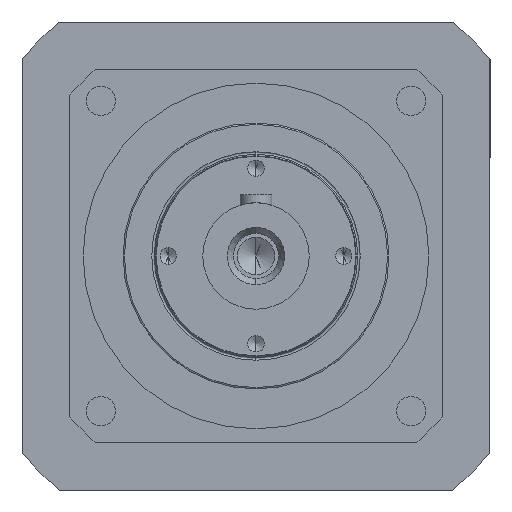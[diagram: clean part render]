
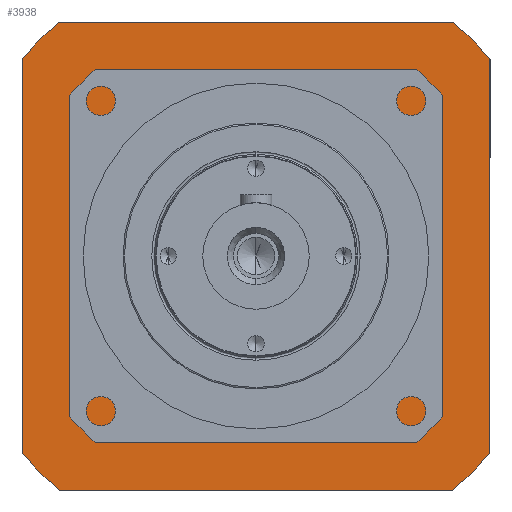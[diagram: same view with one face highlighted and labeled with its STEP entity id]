
A CAD part, left-side view. The second image highlights one B-rep face of the part: STEP entity #3938.
In plain terms, the highlighted planar face has unit normal (-1, 0, 0) as drawn and (0, 0, 1) by its records, which use the part's own axes.
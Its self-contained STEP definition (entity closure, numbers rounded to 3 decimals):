
#126 = CARTESIAN_POINT ( 'NONE',  ( -88., 88., 0. ) ) ;
#186 = ORIENTED_EDGE ( 'NONE', *, *, #6323, .F. ) ;
#188 = DIRECTION ( 'NONE',  ( 0., -1., 0. ) ) ;
#197 = VERTEX_POINT ( 'NONE', #3683 ) ;
#542 = VERTEX_POINT ( 'NONE', #5874 ) ;
#615 = VECTOR ( 'NONE', #188, 1000. ) ;
#750 = CARTESIAN_POINT ( 'NONE',  ( 74.034, 88., 0. ) ) ;
#926 = ORIENTED_EDGE ( 'NONE', *, *, #3957, .T. ) ;
#1027 = EDGE_CURVE ( 'NONE', #9112, #4358, #1733, .T. ) ;
#1128 = ORIENTED_EDGE ( 'NONE', *, *, #3636, .T. ) ;
#1171 = CARTESIAN_POINT ( 'NONE',  ( -62.5, 0., 0. ) ) ;
#1234 = LINE ( 'NONE', #126, #615 ) ;
#1516 = VERTEX_POINT ( 'NONE', #8123 ) ;
#1672 = VECTOR ( 'NONE', #4030, 1000. ) ;
#1733 = LINE ( 'NONE', #2575, #1672 ) ;
#2215 = DIRECTION ( 'NONE',  ( 0., 1., 0. ) ) ;
#2454 = EDGE_CURVE ( 'NONE', #4358, #9563, #6857, .T. ) ;
#2575 = CARTESIAN_POINT ( 'NONE',  ( -88., -88., 0. ) ) ;
#3063 = VERTEX_POINT ( 'NONE', #1171 ) ;
#3137 = AXIS2_PLACEMENT_3D ( 'NONE', #10645, #10637, #10621 ) ;
#3152 = EDGE_CURVE ( 'NONE', #542, #1516, #1234, .T. ) ;
#3192 = CARTESIAN_POINT ( 'NONE',  ( 62.5, 0., 0. ) ) ;
#3528 = CARTESIAN_POINT ( 'NONE',  ( 0., 0., 0. ) ) ;
#3636 = EDGE_CURVE ( 'NONE', #197, #542, #9202, .T. ) ;
#3683 = CARTESIAN_POINT ( 'NONE',  ( -74.034, 88., 0. ) ) ;
#3938 = ADVANCED_FACE ( 'NONE', ( #7573, #7492 ), #10993, .F. ) ;
#3957 = EDGE_CURVE ( 'NONE', #7548, #10428, #7752, .T. ) ;
#3983 = AXIS2_PLACEMENT_3D ( 'NONE', #5174, #5158, #5144 ) ;
#4008 = DIRECTION ( 'NONE',  ( 1., 0., 0. ) ) ;
#4030 = DIRECTION ( 'NONE',  ( 1., 0., 0. ) ) ;
#4209 = ORIENTED_EDGE ( 'NONE', *, *, #2454, .T. ) ;
#4358 = VERTEX_POINT ( 'NONE', #7511 ) ;
#4363 = CARTESIAN_POINT ( 'NONE',  ( 0., 0., 0. ) ) ;
#4385 = DIRECTION ( 'NONE',  ( 0., 0., 1. ) ) ;
#4755 = ORIENTED_EDGE ( 'NONE', *, *, #11034, .T. ) ;
#5040 = CARTESIAN_POINT ( 'NONE',  ( 88., 74.034, 0. ) ) ;
#5144 = DIRECTION ( 'NONE',  ( 1., 0., 0. ) ) ;
#5158 = DIRECTION ( 'NONE',  ( 0., 0., 1. ) ) ;
#5174 = CARTESIAN_POINT ( 'NONE',  ( 0., 0., 0. ) ) ;
#5464 = DIRECTION ( 'NONE',  ( -1., 0., 0. ) ) ;
#5773 = AXIS2_PLACEMENT_3D ( 'NONE', #4363, #4385, #4008 ) ;
#5874 = CARTESIAN_POINT ( 'NONE',  ( -88., 74.034, 0. ) ) ;
#6164 = CARTESIAN_POINT ( 'NONE',  ( 88., 88., 0. ) ) ;
#6166 = CARTESIAN_POINT ( 'NONE',  ( -88., 88., 0. ) ) ;
#6196 = CIRCLE ( 'NONE', #3137, 115. ) ;
#6323 = EDGE_CURVE ( 'NONE', #3063, #10148, #8152, .T. ) ;
#6332 = VECTOR ( 'NONE', #2215, 1000. ) ;
#6354 = VECTOR ( 'NONE', #5464, 1000. ) ;
#6431 = CARTESIAN_POINT ( 'NONE',  ( 88., -74.034, 0. ) ) ;
#6627 = EDGE_LOOP ( 'NONE', ( #10991, #926, #7433, #1128, #6757, #4755, #9697, #4209 ) ) ;
#6757 = ORIENTED_EDGE ( 'NONE', *, *, #3152, .T. ) ;
#6857 = CIRCLE ( 'NONE', #8086, 115. ) ;
#7171 = AXIS2_PLACEMENT_3D ( 'NONE', #10357, #10347, #10337 ) ;
#7174 = AXIS2_PLACEMENT_3D ( 'NONE', #10898, #10772, #10741 ) ;
#7250 = LINE ( 'NONE', #6166, #6354 ) ;
#7381 = AXIS2_PLACEMENT_3D ( 'NONE', #3528, #10373, #9878 ) ;
#7433 = ORIENTED_EDGE ( 'NONE', *, *, #10916, .T. ) ;
#7492 = FACE_OUTER_BOUND ( 'NONE', #6627, .T. ) ;
#7511 = CARTESIAN_POINT ( 'NONE',  ( 74.034, -88., 0. ) ) ;
#7548 = VERTEX_POINT ( 'NONE', #5040 ) ;
#7573 = FACE_BOUND ( 'NONE', #9934, .T. ) ;
#7735 = ORIENTED_EDGE ( 'NONE', *, *, #9725, .F. ) ;
#7752 = CIRCLE ( 'NONE', #7171, 115. ) ;
#7831 = CARTESIAN_POINT ( 'NONE',  ( -74.034, -88., 0. ) ) ;
#8086 = AXIS2_PLACEMENT_3D ( 'NONE', #10734, #10715, #10695 ) ;
#8123 = CARTESIAN_POINT ( 'NONE',  ( -88., -74.034, 0. ) ) ;
#8152 = CIRCLE ( 'NONE', #5773, 62.5 ) ;
#9112 = VERTEX_POINT ( 'NONE', #7831 ) ;
#9202 = CIRCLE ( 'NONE', #7381, 115. ) ;
#9563 = VERTEX_POINT ( 'NONE', #6431 ) ;
#9697 = ORIENTED_EDGE ( 'NONE', *, *, #1027, .T. ) ;
#9725 = EDGE_CURVE ( 'NONE', #10148, #3063, #9893, .T. ) ;
#9878 = DIRECTION ( 'NONE',  ( 1., 0., 0. ) ) ;
#9893 = CIRCLE ( 'NONE', #3983, 62.5 ) ;
#9913 = LINE ( 'NONE', #6164, #6332 ) ;
#9934 = EDGE_LOOP ( 'NONE', ( #7735, #186 ) ) ;
#10148 = VERTEX_POINT ( 'NONE', #3192 ) ;
#10337 = DIRECTION ( 'NONE',  ( 1., 0., 0. ) ) ;
#10347 = DIRECTION ( 'NONE',  ( 0., 0., 1. ) ) ;
#10357 = CARTESIAN_POINT ( 'NONE',  ( 0., 0., 0. ) ) ;
#10373 = DIRECTION ( 'NONE',  ( 0., 0., 1. ) ) ;
#10428 = VERTEX_POINT ( 'NONE', #750 ) ;
#10575 = EDGE_CURVE ( 'NONE', #9563, #7548, #9913, .T. ) ;
#10621 = DIRECTION ( 'NONE',  ( 1., 0., 0. ) ) ;
#10637 = DIRECTION ( 'NONE',  ( 0., 0., 1. ) ) ;
#10645 = CARTESIAN_POINT ( 'NONE',  ( 0., 0., 0. ) ) ;
#10695 = DIRECTION ( 'NONE',  ( 1., 0., 0. ) ) ;
#10715 = DIRECTION ( 'NONE',  ( 0., 0., 1. ) ) ;
#10734 = CARTESIAN_POINT ( 'NONE',  ( 0., 0., 0. ) ) ;
#10741 = DIRECTION ( 'NONE',  ( -1., 0., 0. ) ) ;
#10772 = DIRECTION ( 'NONE',  ( 0., 0., -1. ) ) ;
#10898 = CARTESIAN_POINT ( 'NONE',  ( 0., 62.5, 0. ) ) ;
#10916 = EDGE_CURVE ( 'NONE', #10428, #197, #7250, .T. ) ;
#10991 = ORIENTED_EDGE ( 'NONE', *, *, #10575, .T. ) ;
#10993 = PLANE ( 'NONE',  #7174 ) ;
#11034 = EDGE_CURVE ( 'NONE', #1516, #9112, #6196, .T. ) ;
